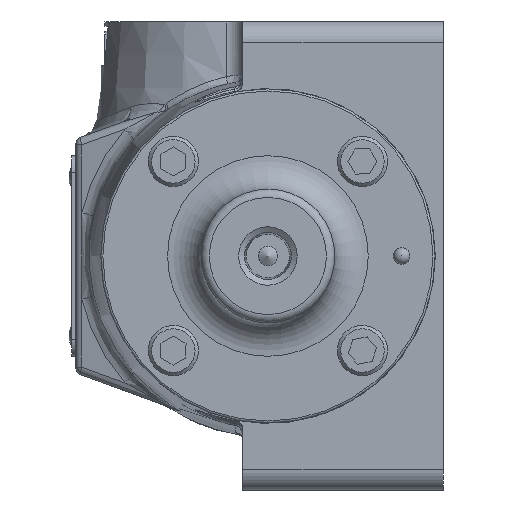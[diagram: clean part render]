
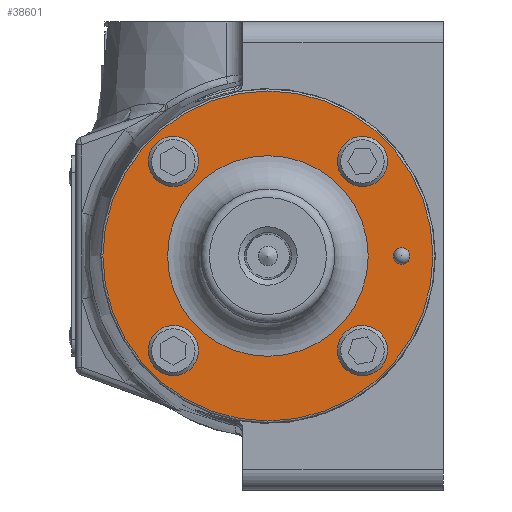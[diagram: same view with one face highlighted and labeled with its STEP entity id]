
A CAD part, left-side view. The second image highlights one B-rep face of the part: STEP entity #38601.
In plain terms, the highlighted planar face has unit normal (-1, 0, 0).
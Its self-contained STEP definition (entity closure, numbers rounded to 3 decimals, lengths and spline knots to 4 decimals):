
#2350=FACE_BOUND('',#5812,.T.);
#2351=FACE_BOUND('',#5813,.T.);
#2352=FACE_BOUND('',#5814,.T.);
#2353=FACE_BOUND('',#5815,.T.);
#2354=FACE_BOUND('',#5816,.T.);
#2355=FACE_BOUND('',#5817,.T.);
#2582=PLANE('',#41045);
#3470=FACE_OUTER_BOUND('',#5811,.T.);
#5811=EDGE_LOOP('',(#24613));
#5812=EDGE_LOOP('',(#24614));
#5813=EDGE_LOOP('',(#24615));
#5814=EDGE_LOOP('',(#24616));
#5815=EDGE_LOOP('',(#24617));
#5816=EDGE_LOOP('',(#24618));
#5817=EDGE_LOOP('',(#24619));
#8365=CIRCLE('',#41046,3.1353);
#8366=CIRCLE('',#41047,0.4763);
#8367=CIRCLE('',#41048,0.4763);
#8368=CIRCLE('',#41049,0.4763);
#8369=CIRCLE('',#41050,0.4763);
#8370=CIRCLE('',#41051,0.1588);
#8371=CIRCLE('',#41052,1.905);
#15178=VERTEX_POINT('',#56279);
#15179=VERTEX_POINT('',#56281);
#15180=VERTEX_POINT('',#56283);
#15181=VERTEX_POINT('',#56285);
#15182=VERTEX_POINT('',#56287);
#15183=VERTEX_POINT('',#56289);
#15184=VERTEX_POINT('',#56291);
#18769=EDGE_CURVE('',#15178,#15178,#8365,.T.);
#18770=EDGE_CURVE('',#15179,#15179,#8366,.T.);
#18771=EDGE_CURVE('',#15180,#15180,#8367,.T.);
#18772=EDGE_CURVE('',#15181,#15181,#8368,.T.);
#18773=EDGE_CURVE('',#15182,#15182,#8369,.T.);
#18774=EDGE_CURVE('',#15183,#15183,#8370,.T.);
#18775=EDGE_CURVE('',#15184,#15184,#8371,.T.);
#24613=ORIENTED_EDGE('',*,*,#18769,.F.);
#24614=ORIENTED_EDGE('',*,*,#18770,.T.);
#24615=ORIENTED_EDGE('',*,*,#18771,.T.);
#24616=ORIENTED_EDGE('',*,*,#18772,.T.);
#24617=ORIENTED_EDGE('',*,*,#18773,.T.);
#24618=ORIENTED_EDGE('',*,*,#18774,.T.);
#24619=ORIENTED_EDGE('',*,*,#18775,.F.);
#38601=ADVANCED_FACE('',(#3470,#2350,#2351,#2352,#2353,#2354,#2355),#2582,
 .F.);
#41045=AXIS2_PLACEMENT_3D('',#56278,#45090,#45091);
#41046=AXIS2_PLACEMENT_3D('',#56280,#45092,#45093);
#41047=AXIS2_PLACEMENT_3D('',#56282,#45094,#45095);
#41048=AXIS2_PLACEMENT_3D('',#56284,#45096,#45097);
#41049=AXIS2_PLACEMENT_3D('',#56286,#45098,#45099);
#41050=AXIS2_PLACEMENT_3D('',#56288,#45100,#45101);
#41051=AXIS2_PLACEMENT_3D('',#56290,#45102,#45103);
#41052=AXIS2_PLACEMENT_3D('',#56292,#45104,#45105);
#45090=DIRECTION('center_axis',(1.,0.,0.));
#45091=DIRECTION('ref_axis',(0.,0.,
-1.));
#45092=DIRECTION('center_axis',(1.,0.,0.));
#45093=DIRECTION('ref_axis',(0.,0.,
-1.));
#45094=DIRECTION('center_axis',(1.,0.,0.));
#45095=DIRECTION('ref_axis',(0.,-0.2,-0.98));
#45096=DIRECTION('center_axis',(1.,0.,0.));
#45097=DIRECTION('ref_axis',(0.,-0.488,-0.873));
#45098=DIRECTION('center_axis',(1.,0.,0.));
#45099=DIRECTION('ref_axis',(0.,-1.,-0.02));
#45100=DIRECTION('center_axis',(1.,0.,0.));
#45101=DIRECTION('ref_axis',(0.,-0.004,
-1.));
#45102=DIRECTION('center_axis',(1.,0.,0.));
#45103=DIRECTION('ref_axis',(0.,0.,
-1.));
#45104=DIRECTION('center_axis',(-1.,0.,0.));
#45105=DIRECTION('ref_axis',(0.,0.,
-1.));
#56278=CARTESIAN_POINT('Origin',(-6.1074,0.,0.));
#56279=CARTESIAN_POINT('',(-6.1074,0.,3.1353));
#56280=CARTESIAN_POINT('Origin',(-6.1074,0.,0.));
#56281=CARTESIAN_POINT('',(-6.1074,-1.7009,-1.3294));
#56282=CARTESIAN_POINT('Origin',(-6.1074,-1.7961,-1.7961));
#56283=CARTESIAN_POINT('',(-6.1074,2.0283,2.2119));
#56284=CARTESIAN_POINT('Origin',(-6.1074,1.7961,1.7961));
#56285=CARTESIAN_POINT('',(-6.1074,2.2722,-1.7864));
#56286=CARTESIAN_POINT('Origin',(-6.1074,1.7961,-1.7961));
#56287=CARTESIAN_POINT('',(-6.1074,-1.7941,2.2723));
#56288=CARTESIAN_POINT('Origin',(-6.1074,-1.7961,1.7961));
#56289=CARTESIAN_POINT('',(-6.1074,-2.54,-0.1587));
#56290=CARTESIAN_POINT('Origin',(-6.1074,-2.54,0.));
#56291=CARTESIAN_POINT('',(-6.1074,0.,1.905));
#56292=CARTESIAN_POINT('Origin',(-6.1074,0.,0.));
